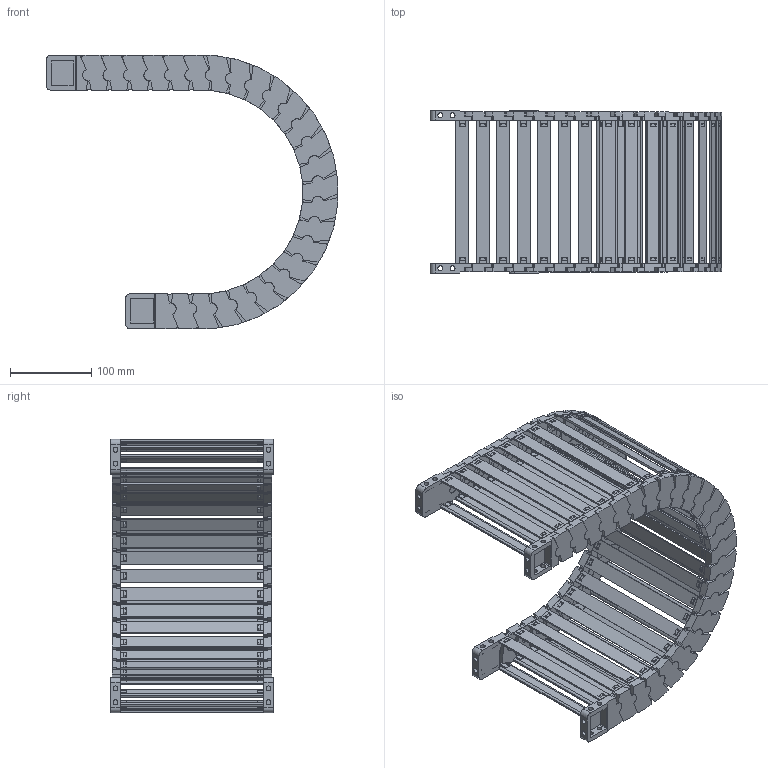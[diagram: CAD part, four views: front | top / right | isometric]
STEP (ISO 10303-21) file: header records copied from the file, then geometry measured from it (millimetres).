
FILE_DESCRIPTION((''),'2;1');
FILE_NAME('JY-35X175-R150_ASM','2026-05-04T14:29:01',('admin'),(''),'CREO PARAMETRIC BY PTC INC, 2021023','CREO PARAMETRIC BY PTC INC, 2021023','');
FILE_SCHEMA(('CONFIG_CONTROL_DESIGN'));
Length unit declared in the file: millimetre
Products named in the file (11): 35XL-L; 25-35XL-YP; 35XL-R; ASM0001_ASM; 35-LTT-A-L; 35-LTT-A-R; 35XL-LTT-A_ASM; 35-LTT-B-L; 35-LTT-B-R; 35XL-LTT-B_ASM; JY-35X175-R150_ASM
Assembly tree (39 placements, depth 3):
  JY-35X175-R150_ASM
    ASM0001_ASM  x25
      35XL-L
      25-35XL-YP
      35XL-R
    35XL-LTT-A_ASM
      35-LTT-A-L
      25-35XL-YP  x2
      35-LTT-A-R
    35XL-LTT-B_ASM
      35-LTT-B-L
      25-35XL-YP  x2
      35-LTT-B-R
Bounding box: 358.3 x 200.1 x 336.22 mm (x, y, z)
Volume: 1047749.1 mm3; surface area: 668021 mm2
Topology: 108 solids, 108 shells, 5602 faces, 16394 edges, 10960 vertices
Faces by surface type: plane 4266, cylinder 1332, bspline 4
Entity records: 17208 total; most frequent: CARTESIAN_POINT 3198, DIRECTION 2876, ORIENTED_EDGE 2876, EDGE_CURVE 1438, VECTOR 1056, LINE 1056, VERTEX_POINT 964, AXIS2_PLACEMENT_3D 910
